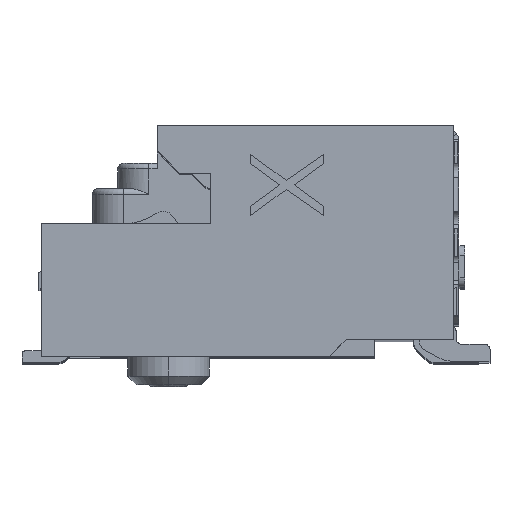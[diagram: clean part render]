
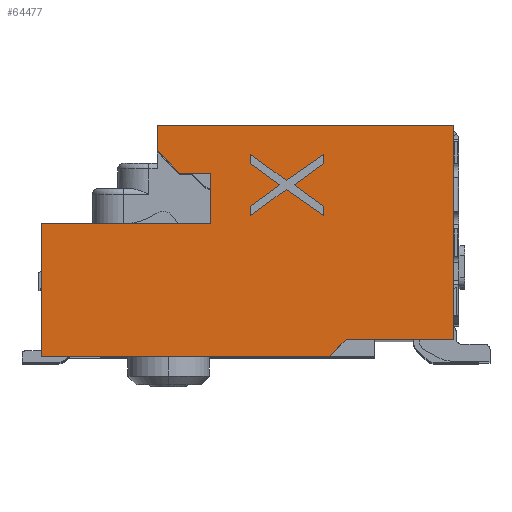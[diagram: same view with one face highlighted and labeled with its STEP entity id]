
A CAD part, top view. The second image highlights one B-rep face of the part: STEP entity #64477.
In plain terms, the highlighted planar face has unit normal (0, 0, 1).
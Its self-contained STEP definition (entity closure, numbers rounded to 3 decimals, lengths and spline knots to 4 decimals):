
#109=DIRECTION('',(0.,-1.,0.));
#110=VECTOR('',#109,2.35);
#111=CARTESIAN_POINT('',(-4.,-0.45,10.925));
#112=LINE('',#111,#110);
#569=DIRECTION('',(1.,0.,0.));
#570=VECTOR('',#569,5.1);
#571=CARTESIAN_POINT('',(-4.,-2.8,10.925));
#572=LINE('',#571,#570);
#6238=DIRECTION('',(-0.707,-0.707,0.));
#6239=VECTOR('',#6238,0.4243);
#6240=CARTESIAN_POINT('',(1.4,-2.5,10.925));
#6241=LINE('',#6240,#6239);
#6242=DIRECTION('',(1.,0.,0.));
#6243=VECTOR('',#6242,3.);
#6244=CARTESIAN_POINT('',(-4.,-0.45,10.925));
#6245=LINE('',#6244,#6243);
#6246=DIRECTION('',(0.,1.,0.));
#6247=VECTOR('',#6246,0.9);
#6248=CARTESIAN_POINT('',(-1.,-0.45,10.925));
#6249=LINE('',#6248,#6247);
#6250=DIRECTION('',(-1.,0.,0.));
#6251=VECTOR('',#6250,0.55);
#6252=CARTESIAN_POINT('',(-1.,0.45,10.925));
#6253=LINE('',#6252,#6251);
#6254=DIRECTION('',(-0.707,0.707,0.));
#6255=VECTOR('',#6254,0.5657);
#6256=CARTESIAN_POINT('',(-1.55,0.45,10.925));
#6257=LINE('',#6256,#6255);
#6258=DIRECTION('',(0.,1.,0.));
#6259=VECTOR('',#6258,0.45);
#6260=CARTESIAN_POINT('',(-1.95,0.85,10.925));
#6261=LINE('',#6260,#6259);
#6262=DIRECTION('',(1.,0.,0.));
#6263=VECTOR('',#6262,5.25);
#6264=CARTESIAN_POINT('',(-1.95,1.3,10.925));
#6265=LINE('',#6264,#6263);
#6266=DIRECTION('',(0.,-1.,0.));
#6267=VECTOR('',#6266,3.8);
#6268=CARTESIAN_POINT('',(3.3,1.3,10.925));
#6269=LINE('',#6268,#6267);
#6270=DIRECTION('',(-1.,0.,0.));
#6271=VECTOR('',#6270,1.9);
#6272=CARTESIAN_POINT('',(3.3,-2.5,10.925));
#6273=LINE('',#6272,#6271);
#6274=DIRECTION('',(-0.811,0.585,0.));
#6275=VECTOR('',#6274,0.648);
#6276=CARTESIAN_POINT('',(1.,-0.1375,10.925));
#6277=LINE('',#6276,#6275);
#6278=DIRECTION('',(0.811,0.585,0.));
#6279=VECTOR('',#6278,0.648);
#6280=CARTESIAN_POINT('',(0.4745,0.2417,10.925));
#6281=LINE('',#6280,#6279);
#6282=DIRECTION('',(0.,1.,0.));
#6283=VECTOR('',#6282,0.1625);
#6284=CARTESIAN_POINT('',(1.,0.6208,10.925));
#6285=LINE('',#6284,#6283);
#6286=DIRECTION('',(-0.822,-0.57,0.));
#6287=VECTOR('',#6286,0.8079);
#6288=CARTESIAN_POINT('',(1.,0.7833,10.925));
#6289=LINE('',#6288,#6287);
#6290=DIRECTION('',(-0.81,0.586,0.));
#6291=VECTOR('',#6290,0.7853);
#6292=CARTESIAN_POINT('',(0.3362,0.3229,10.925));
#6293=LINE('',#6292,#6291);
#6294=DIRECTION('',(0.,-1.,0.));
#6295=VECTOR('',#6294,0.1625);
#6296=CARTESIAN_POINT('',(-0.3,0.7833,10.925));
#6297=LINE('',#6296,#6295);
#6298=DIRECTION('',(0.811,-0.585,0.));
#6299=VECTOR('',#6298,0.648);
#6300=CARTESIAN_POINT('',(-0.3,0.6208,10.925));
#6301=LINE('',#6300,#6299);
#6302=DIRECTION('',(-0.811,-0.585,0.));
#6303=VECTOR('',#6302,0.648);
#6304=CARTESIAN_POINT('',(0.2255,0.2417,10.925));
#6305=LINE('',#6304,#6303);
#6306=DIRECTION('',(0.,-1.,0.));
#6307=VECTOR('',#6306,0.1625);
#6308=CARTESIAN_POINT('',(-0.3,-0.1375,10.925));
#6309=LINE('',#6308,#6307);
#6310=DIRECTION('',(0.81,0.586,0.));
#6311=VECTOR('',#6310,0.7853);
#6312=CARTESIAN_POINT('',(-0.3,-0.3,10.925));
#6313=LINE('',#6312,#6311);
#6314=DIRECTION('',(0.822,-0.57,0.));
#6315=VECTOR('',#6314,0.8079);
#6316=CARTESIAN_POINT('',(0.3362,0.1604,10.925));
#6317=LINE('',#6316,#6315);
#6318=DIRECTION('',(0.,1.,0.));
#6319=VECTOR('',#6318,0.1625);
#6320=CARTESIAN_POINT('',(1.,-0.3,10.925));
#6321=LINE('',#6320,#6319);
#47236=CARTESIAN_POINT('',(-4.,-2.8,10.925));
#47238=VERTEX_POINT('',#47236);
#47290=CARTESIAN_POINT('',(-4.,-0.45,10.925));
#47291=VERTEX_POINT('',#47290);
#47590=CARTESIAN_POINT('',(1.1,-2.8,10.925));
#47591=VERTEX_POINT('',#47590);
#47618=CARTESIAN_POINT('',(1.4,-2.5,10.925));
#47619=VERTEX_POINT('',#47618);
#47620=CARTESIAN_POINT('',(3.3,-2.5,10.925));
#47621=VERTEX_POINT('',#47620);
#47957=CARTESIAN_POINT('',(3.3,1.3,10.925));
#47958=VERTEX_POINT('',#47957);
#49125=CARTESIAN_POINT('',(-1.95,1.3,10.925));
#49127=VERTEX_POINT('',#49125);
#49845=CARTESIAN_POINT('',(-1.95,0.85,10.925));
#49846=VERTEX_POINT('',#49845);
#49849=CARTESIAN_POINT('',(-1.,-0.45,10.925));
#49850=VERTEX_POINT('',#49849);
#49851=CARTESIAN_POINT('',(-1.,0.45,10.925));
#49852=VERTEX_POINT('',#49851);
#49853=CARTESIAN_POINT('',(-1.55,0.45,10.925));
#49854=VERTEX_POINT('',#49853);
#49855=CARTESIAN_POINT('',(1.,-0.1375,10.925));
#49856=CARTESIAN_POINT('',(0.4745,0.2417,10.925));
#49857=VERTEX_POINT('',#49855);
#49858=VERTEX_POINT('',#49856);
#49859=CARTESIAN_POINT('',(1.,0.6208,10.925));
#49860=VERTEX_POINT('',#49859);
#49861=CARTESIAN_POINT('',(1.,0.7833,10.925));
#49862=VERTEX_POINT('',#49861);
#49863=CARTESIAN_POINT('',(0.3362,0.3229,10.925));
#49864=VERTEX_POINT('',#49863);
#49865=CARTESIAN_POINT('',(-0.3,0.7833,10.925));
#49866=VERTEX_POINT('',#49865);
#49867=CARTESIAN_POINT('',(-0.3,0.6208,10.925));
#49868=VERTEX_POINT('',#49867);
#49869=CARTESIAN_POINT('',(0.2255,0.2417,10.925));
#49870=VERTEX_POINT('',#49869);
#49871=CARTESIAN_POINT('',(-0.3,-0.1375,10.925));
#49872=VERTEX_POINT('',#49871);
#49873=CARTESIAN_POINT('',(-0.3,-0.3,10.925));
#49874=VERTEX_POINT('',#49873);
#49875=CARTESIAN_POINT('',(0.3362,0.1604,10.925));
#49876=VERTEX_POINT('',#49875);
#49877=CARTESIAN_POINT('',(1.,-0.3,10.925));
#49878=VERTEX_POINT('',#49877);
#64428=CARTESIAN_POINT('',(0.,0.,10.925));
#64429=DIRECTION('',(0.,0.,1.));
#64430=DIRECTION('',(1.,0.,0.));
#64431=AXIS2_PLACEMENT_3D('',#64428,#64429,#64430);
#64432=PLANE('',#64431);
#64434=ORIENTED_EDGE('',*,*,#64433,.T.);
#64435=ORIENTED_EDGE('',*,*,#61196,.F.);
#64436=ORIENTED_EDGE('',*,*,#60817,.F.);
#64438=ORIENTED_EDGE('',*,*,#64437,.T.);
#64440=ORIENTED_EDGE('',*,*,#64439,.T.);
#64442=ORIENTED_EDGE('',*,*,#64441,.T.);
#64444=ORIENTED_EDGE('',*,*,#64443,.T.);
#64445=ORIENTED_EDGE('',*,*,#64418,.T.);
#64446=ORIENTED_EDGE('',*,*,#63286,.T.);
#64447=ORIENTED_EDGE('',*,*,#61673,.T.);
#64448=ORIENTED_EDGE('',*,*,#61250,.T.);
#64449=EDGE_LOOP('',(#64434,#64435,#64436,#64438,#64440,#64442,#64444,#64445,
#64446,#64447,#64448));
#64450=FACE_OUTER_BOUND('',#64449,.F.);
#64452=ORIENTED_EDGE('',*,*,#64451,.T.);
#64454=ORIENTED_EDGE('',*,*,#64453,.T.);
#64456=ORIENTED_EDGE('',*,*,#64455,.T.);
#64458=ORIENTED_EDGE('',*,*,#64457,.T.);
#64460=ORIENTED_EDGE('',*,*,#64459,.T.);
#64462=ORIENTED_EDGE('',*,*,#64461,.T.);
#64464=ORIENTED_EDGE('',*,*,#64463,.T.);
#64466=ORIENTED_EDGE('',*,*,#64465,.T.);
#64468=ORIENTED_EDGE('',*,*,#64467,.T.);
#64470=ORIENTED_EDGE('',*,*,#64469,.T.);
#64472=ORIENTED_EDGE('',*,*,#64471,.T.);
#64474=ORIENTED_EDGE('',*,*,#64473,.T.);
#64475=EDGE_LOOP('',(#64452,#64454,#64456,#64458,#64460,#64462,#64464,#64466,
#64468,#64470,#64472,#64474));
#64476=FACE_BOUND('',#64475,.F.);
#64477=ADVANCED_FACE('',(#64450,#64476),#64432,.T.);
#60817=EDGE_CURVE('',#47291,#47238,#112,.T.);
#61196=EDGE_CURVE('',#47238,#47591,#572,.T.);
#61250=EDGE_CURVE('',#47621,#47619,#6273,.T.);
#61673=EDGE_CURVE('',#47958,#47621,#6269,.T.);
#63286=EDGE_CURVE('',#49127,#47958,#6265,.T.);
#64418=EDGE_CURVE('',#49846,#49127,#6261,.T.);
#64433=EDGE_CURVE('',#47619,#47591,#6241,.T.);
#64437=EDGE_CURVE('',#47291,#49850,#6245,.T.);
#64439=EDGE_CURVE('',#49850,#49852,#6249,.T.);
#64441=EDGE_CURVE('',#49852,#49854,#6253,.T.);
#64443=EDGE_CURVE('',#49854,#49846,#6257,.T.);
#64451=EDGE_CURVE('',#49857,#49858,#6277,.T.);
#64453=EDGE_CURVE('',#49858,#49860,#6281,.T.);
#64455=EDGE_CURVE('',#49860,#49862,#6285,.T.);
#64457=EDGE_CURVE('',#49862,#49864,#6289,.T.);
#64459=EDGE_CURVE('',#49864,#49866,#6293,.T.);
#64461=EDGE_CURVE('',#49866,#49868,#6297,.T.);
#64463=EDGE_CURVE('',#49868,#49870,#6301,.T.);
#64465=EDGE_CURVE('',#49870,#49872,#6305,.T.);
#64467=EDGE_CURVE('',#49872,#49874,#6309,.T.);
#64469=EDGE_CURVE('',#49874,#49876,#6313,.T.);
#64471=EDGE_CURVE('',#49876,#49878,#6317,.T.);
#64473=EDGE_CURVE('',#49878,#49857,#6321,.T.);
